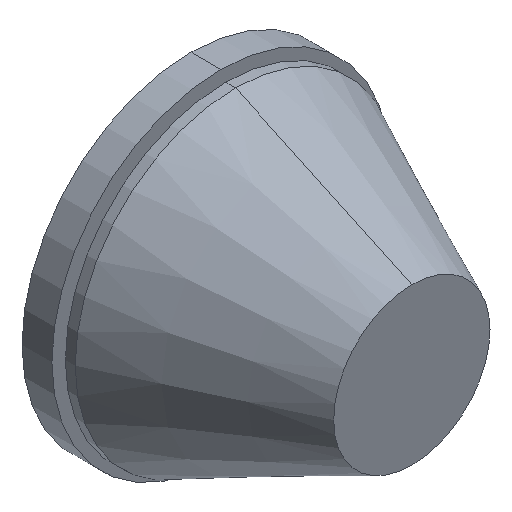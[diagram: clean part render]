
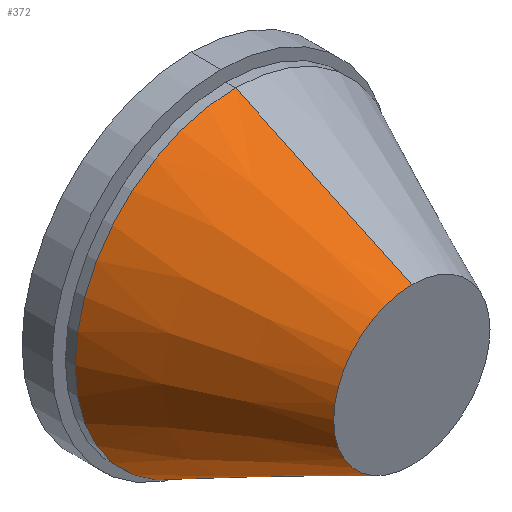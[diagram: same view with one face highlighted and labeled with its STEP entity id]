
A CAD part, isometric view. The second image highlights one B-rep face of the part: STEP entity #372.
In plain terms, the highlighted conical face has half-angle 25.01 degrees and reference radius 15.955 mm.
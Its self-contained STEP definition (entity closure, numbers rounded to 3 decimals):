
#3 = ORIENTED_EDGE ( 'NONE', *, *, #322, .F. ) ;
#9 = VERTEX_POINT ( 'NONE', #307 ) ;
#15 = VECTOR ( 'NONE', #317, 1000. ) ;
#20 = ORIENTED_EDGE ( 'NONE', *, *, #321, .T. ) ;
#28 = VERTEX_POINT ( 'NONE', #154 ) ;
#29 = VERTEX_POINT ( 'NONE', #155 ) ;
#39 = ORIENTED_EDGE ( 'NONE', *, *, #342, .F. ) ;
#43 = VERTEX_POINT ( 'NONE', #320 ) ;
#48 = LINE ( 'NONE', #319, #15 ) ;
#59 = EDGE_LOOP ( 'NONE', ( #39, #3, #20, #74 ) ) ;
#71 = CIRCLE ( 'NONE', #128, 32.75 ) ;
#72 = CIRCLE ( 'NONE', #343, 15.955 ) ;
#74 = ORIENTED_EDGE ( 'NONE', *, *, #323, .T. ) ;
#91 = CARTESIAN_POINT ( 'NONE',  ( 0., 0., -15.955 ) ) ;
#92 = DIRECTION ( 'NONE',  ( 0., 0.906, -0.423 ) ) ;
#128 = AXIS2_PLACEMENT_3D ( 'NONE', #309, #308, #306 ) ;
#142 = AXIS2_PLACEMENT_3D ( 'NONE', #348, #368, #355 ) ;
#154 = CARTESIAN_POINT ( 'NONE',  ( 0., 36., -32.75 ) ) ;
#155 = CARTESIAN_POINT ( 'NONE',  ( 0., 0., 15.955 ) ) ;
#201 = CONICAL_SURFACE ( 'NONE', #142, 15.955, 0.437 ) ;
#209 = FACE_OUTER_BOUND ( 'NONE', #59, .T. ) ;
#210 = VECTOR ( 'NONE', #92, 1000. ) ;
#224 = LINE ( 'NONE', #91, #210 ) ;
#306 = DIRECTION ( 'NONE',  ( 0., 0., -1. ) ) ;
#307 = CARTESIAN_POINT ( 'NONE',  ( 0., 0., -15.955 ) ) ;
#308 = DIRECTION ( 'NONE',  ( 0., -1., 0. ) ) ;
#309 = CARTESIAN_POINT ( 'NONE',  ( 0., 36., 0. ) ) ;
#311 = DIRECTION ( 'NONE',  ( 0., 0., -1. ) ) ;
#313 = DIRECTION ( 'NONE',  ( 0., -1., 0. ) ) ;
#314 = CARTESIAN_POINT ( 'NONE',  ( 0., 0., 0. ) ) ;
#317 = DIRECTION ( 'NONE',  ( 0., 0.906, 0.423 ) ) ;
#319 = CARTESIAN_POINT ( 'NONE',  ( 0., 0., 15.955 ) ) ;
#320 = CARTESIAN_POINT ( 'NONE',  ( 0., 36., 32.75 ) ) ;
#321 = EDGE_CURVE ( 'NONE', #29, #43, #48, .T. ) ;
#322 = EDGE_CURVE ( 'NONE', #29, #9, #72, .T. ) ;
#323 = EDGE_CURVE ( 'NONE', #43, #28, #71, .T. ) ;
#342 = EDGE_CURVE ( 'NONE', #9, #28, #224, .T. ) ;
#343 = AXIS2_PLACEMENT_3D ( 'NONE', #314, #313, #311 ) ;
#348 = CARTESIAN_POINT ( 'NONE',  ( 0., 0., 0. ) ) ;
#355 = DIRECTION ( 'NONE',  ( 0., 0., 1. ) ) ;
#368 = DIRECTION ( 'NONE',  ( 0., 1., 0. ) ) ;
#372 = ADVANCED_FACE ( 'NONE', ( #209 ), #201, .T. ) ;
